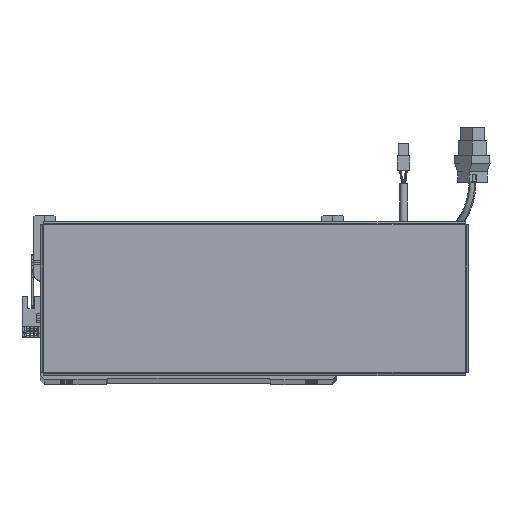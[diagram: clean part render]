
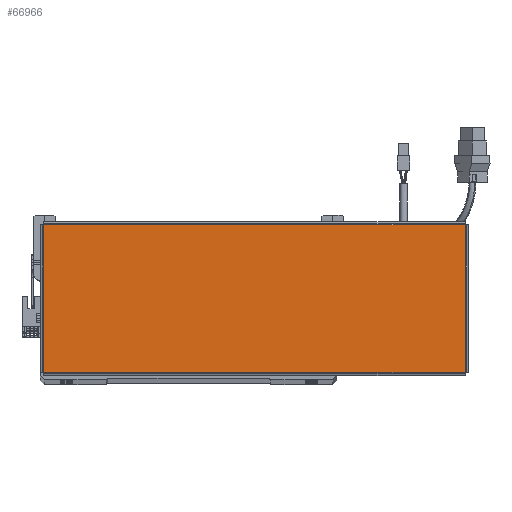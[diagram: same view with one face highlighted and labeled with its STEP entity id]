
A CAD part, top view. The second image highlights one B-rep face of the part: STEP entity #66966.
In plain terms, the highlighted planar face has unit normal (0, 0, 1).
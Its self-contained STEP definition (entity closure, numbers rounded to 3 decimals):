
#387 = CARTESIAN_POINT ( 'NONE',  ( -156.513, 54.763, 0. ) ) ;
#1163 = LINE ( 'NONE', #55418, #56058 ) ;
#1760 = CARTESIAN_POINT ( 'NONE',  ( 156.513, -54.793, 0. ) ) ;
#5772 = VERTEX_POINT ( 'NONE', #36558 ) ;
#6744 = EDGE_CURVE ( 'NONE', #5772, #59876, #74688, .T. ) ;
#8581 = CARTESIAN_POINT ( 'NONE',  ( 156.513, 54.763, 0. ) ) ;
#14367 = DIRECTION ( 'NONE',  ( 1., 0., 0. ) ) ;
#17728 = ORIENTED_EDGE ( 'NONE', *, *, #37093, .T. ) ;
#18664 = DIRECTION ( 'NONE',  ( 0., 1., 0. ) ) ;
#20746 = LINE ( 'NONE', #1760, #59786 ) ;
#21121 = EDGE_CURVE ( 'NONE', #69558, #36380, #1163, .T. ) ;
#22199 = FACE_OUTER_BOUND ( 'NONE', #41969, .T. ) ;
#22919 = VECTOR ( 'NONE', #37044, 1000. ) ;
#32737 = EDGE_CURVE ( 'NONE', #59876, #69558, #20746, .T. ) ;
#33366 = CARTESIAN_POINT ( 'NONE',  ( 156.513, -54.763, 0. ) ) ;
#36380 = VERTEX_POINT ( 'NONE', #387 ) ;
#36489 = PLANE ( 'NONE',  #64744 ) ;
#36558 = CARTESIAN_POINT ( 'NONE',  ( -156.513, -54.763, 0. ) ) ;
#37044 = DIRECTION ( 'NONE',  ( 0., -1., 0. ) ) ;
#37093 = EDGE_CURVE ( 'NONE', #36380, #5772, #42390, .T. ) ;
#38540 = DIRECTION ( 'NONE',  ( 0., 0., 1. ) ) ;
#41969 = EDGE_LOOP ( 'NONE', ( #56180, #44177, #50196, #17728 ) ) ;
#42390 = LINE ( 'NONE', #49298, #22919 ) ;
#42875 = CARTESIAN_POINT ( 'NONE',  ( -156.543, -54.763, 0. ) ) ;
#43676 = DIRECTION ( 'NONE',  ( -1., 0., 0. ) ) ;
#44177 = ORIENTED_EDGE ( 'NONE', *, *, #32737, .T. ) ;
#49298 = CARTESIAN_POINT ( 'NONE',  ( -156.513, 54.793, 0. ) ) ;
#49648 = VECTOR ( 'NONE', #14367, 1000. ) ;
#50196 = ORIENTED_EDGE ( 'NONE', *, *, #21121, .T. ) ;
#55238 = CARTESIAN_POINT ( 'NONE',  ( 0., 0., 0. ) ) ;
#55418 = CARTESIAN_POINT ( 'NONE',  ( 156.543, 54.763, 0. ) ) ;
#56058 = VECTOR ( 'NONE', #43676, 1000. ) ;
#56180 = ORIENTED_EDGE ( 'NONE', *, *, #6744, .T. ) ;
#59786 = VECTOR ( 'NONE', #18664, 1000. ) ;
#59876 = VERTEX_POINT ( 'NONE', #33366 ) ;
#62203 = DIRECTION ( 'NONE',  ( 1., 0., 0. ) ) ;
#64744 = AXIS2_PLACEMENT_3D ( 'NONE', #55238, #38540, #62203 ) ;
#66966 = ADVANCED_FACE ( 'NONE', ( #22199 ), #36489, .T. ) ;
#69558 = VERTEX_POINT ( 'NONE', #8581 ) ;
#74688 = LINE ( 'NONE', #42875, #49648 ) ;
